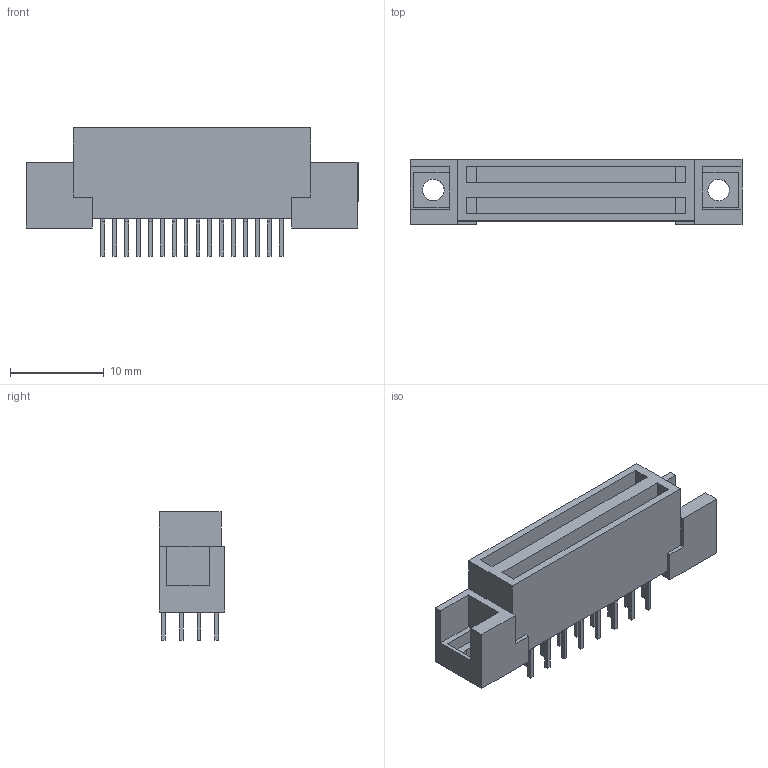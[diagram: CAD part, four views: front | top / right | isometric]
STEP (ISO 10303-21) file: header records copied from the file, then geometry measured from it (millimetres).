
FILE_DESCRIPTION(/* description */ (''),/* implementation_level */ '2;1');
FILE_NAME(/* name */ '78-5110-5931-9.stp',/* time_stamp */ '2011-07-19T14:54:30-05:00',/* author */ (''),/* organization */ (''),/* preprocessor_version */ 'ST-DEVELOPER v11',/* originating_system */ 'SIEMENS PLM Software NX 7.5',/* authorisation */ '');
FILE_SCHEMA (('AUTOMOTIVE_DESIGN { 1 0 10303 214 1 1 1 1 }'));
Length unit declared in the file: millimetre
Products named in the file (1): 78-5110-5931-9
Bounding box: 35.45 x 7.01 x 13.69 mm (x, y, z)
Volume: 1393.2 mm3; surface area: 2367.7 mm2
Topology: 1 solids, 1 shells, 292 faces, 913 edges, 658 vertices
Faces by surface type: plane 288, cylinder 4
Entity records: 10982 total; most frequent: CARTESIAN_POINT 3014, ORIENTED_EDGE 1826, DIRECTION 1121, EDGE_CURVE 913, VERTEX_POINT 658, LINE 535, VECTOR 535, B_SPLINE_CURVE_WITH_KNOTS 378
